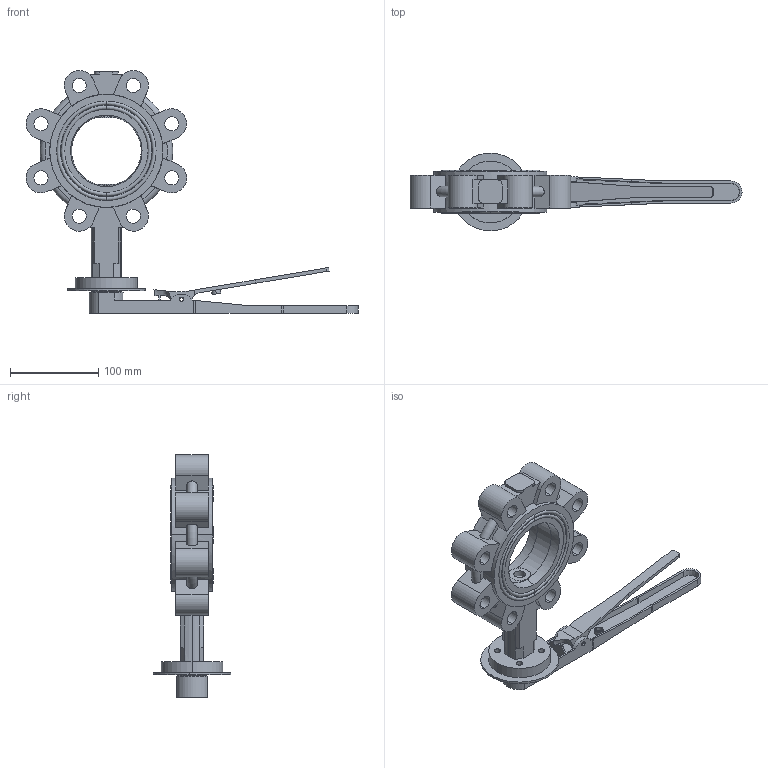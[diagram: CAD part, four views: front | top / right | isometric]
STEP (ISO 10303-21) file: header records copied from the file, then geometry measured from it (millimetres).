
FILE_DESCRIPTION (( 'STEP AP203' ), '1' );
FILE_NAME ('DN80凸耳手柄.STEP', '2026-06-16T07:49:12', ( '微软用户' ), ( '微软中国' ), 'SwSTEP 2.0', 'SolidWorks 2024', '' );
FILE_SCHEMA (( 'CONFIG_CONTROL_DESIGN' ));
Length unit declared in the file: millimetre
Products named in the file (8): 80凸耳，; 玛钢手柄装配9; spring pin slotted light duty1 gb_GB_PARALLEL_PINS_TYPE7 5X35; 衬胶3寸; 玛钢手柄弹簧本体9; 玛钢手柄本体9; DN80凸耳手柄; 3寸齿盘
Assembly tree (7 placements, depth 3):
  DN80凸耳手柄
    80凸耳，
    衬胶3寸
    玛钢手柄装配9
      玛钢手柄本体9
      玛钢手柄弹簧本体9
      spring pin slotted light duty1 gb_GB_PARALLEL_PINS_TYPE7 5X35
    3寸齿盘
Bounding box: 375.66 x 87.76 x 274.89 mm (x, y, z)
Volume: 844993 mm3; surface area: 236800.9 mm2
Topology: 7 solids, 7 shells, 333 faces, 901 edges, 596 vertices
Faces by surface type: plane 166, cylinder 120, cone 23, torus 22, bspline 2
Entity records: 12353 total; most frequent: CARTESIAN_POINT 2787, DIRECTION 1895, ORIENTED_EDGE 1802, EDGE_CURVE 901, AXIS2_PLACEMENT_3D 706, VERTEX_POINT 596, VECTOR 483, LINE 483
